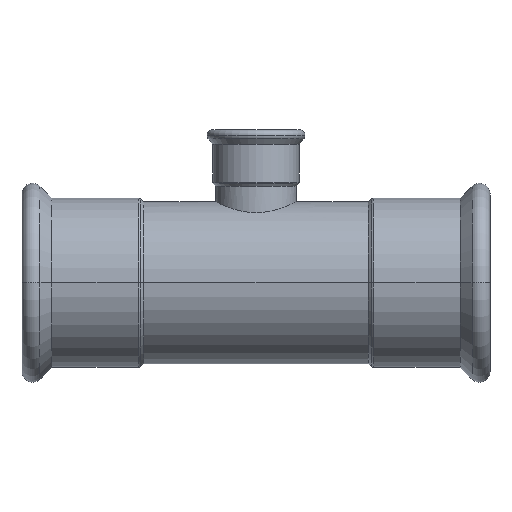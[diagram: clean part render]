
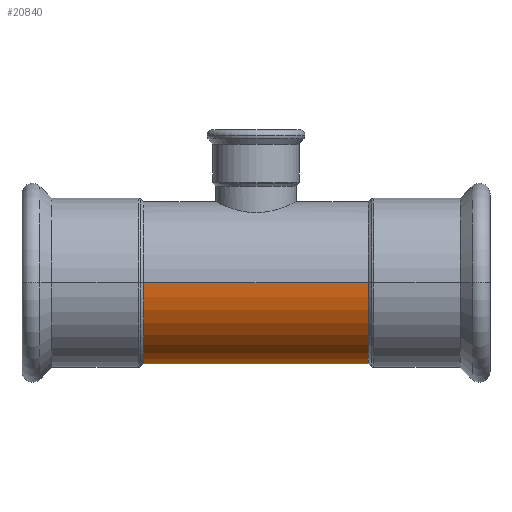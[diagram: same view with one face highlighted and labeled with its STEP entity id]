
A CAD part, front view. The second image highlights one B-rep face of the part: STEP entity #20840.
In plain terms, the highlighted cylindrical face has radius 54 mm (diameter 108 mm), a partial arc.
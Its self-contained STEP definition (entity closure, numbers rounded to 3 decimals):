
#1510=CARTESIAN_POINT('',(105.344,129.195,0.));
#1520=DIRECTION('',(1.,0.,0.));
#1530=DIRECTION('',(0.,0.,-1.));
#1540=AXIS2_PLACEMENT_3D('',#1510,#1520,#1530);
#1550=CYLINDRICAL_SURFACE('',#1540,54.);
#20480=CARTESIAN_POINT('',(105.344,129.195,54.));
#20490=DIRECTION('',(1.,0.,0.));
#20500=VECTOR('',#20490,1.);
#20510=LINE('',#20480,#20500);
#20520=CARTESIAN_POINT('',(-44.656,129.195,54.));
#20530=VERTEX_POINT('',#20520);
#20540=CARTESIAN_POINT('',(105.344,129.195,54.));
#20550=VERTEX_POINT('',#20540);
#20560=EDGE_CURVE('',#20530,#20550,#20510,.T.);
#20570=ORIENTED_EDGE('',*,*,#20560,.F.);
#20580=CARTESIAN_POINT('',(105.344,129.195,0.));
#20590=DIRECTION('',(1.,0.,0.));
#20600=DIRECTION('',(0.,0.,1.));
#20610=AXIS2_PLACEMENT_3D('',#20580,#20590,#20600);
#20620=CIRCLE('',#20610,54.);
#20630=CARTESIAN_POINT('',(105.344,129.195,-54.));
#20640=VERTEX_POINT('',#20630);
#20650=EDGE_CURVE('',#20550,#20640,#20620,.T.);
#20660=ORIENTED_EDGE('',*,*,#20650,.F.);
#20670=CARTESIAN_POINT('',(105.344,129.195,-54.));
#20680=DIRECTION('',(1.,0.,0.));
#20690=VECTOR('',#20680,1.);
#20700=LINE('',#20670,#20690);
#20710=CARTESIAN_POINT('',(-44.656,129.195,-54.));
#20720=VERTEX_POINT('',#20710);
#20730=EDGE_CURVE('',#20720,#20640,#20700,.T.);
#20740=ORIENTED_EDGE('',*,*,#20730,.T.);
#20750=CARTESIAN_POINT('',(-44.656,129.195,0.));
#20760=DIRECTION('',(1.,0.,0.));
#20770=DIRECTION('',(0.,0.,-1.));
#20780=AXIS2_PLACEMENT_3D('',#20750,#20760,#20770);
#20790=CIRCLE('',#20780,54.);
#20800=EDGE_CURVE('',#20530,#20720,#20790,.T.);
#20810=ORIENTED_EDGE('',*,*,#20800,.T.);
#20820=EDGE_LOOP('',(#20810,#20740,#20660,#20570));
#20830=FACE_OUTER_BOUND('',#20820,.T.);
#20840=ADVANCED_FACE('',(#20830),#1550,.T.);
